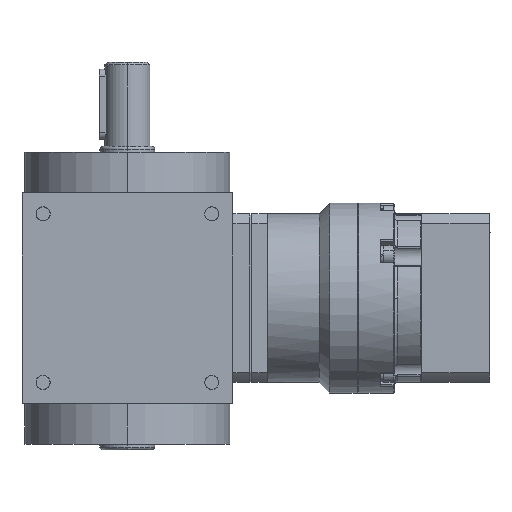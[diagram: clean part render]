
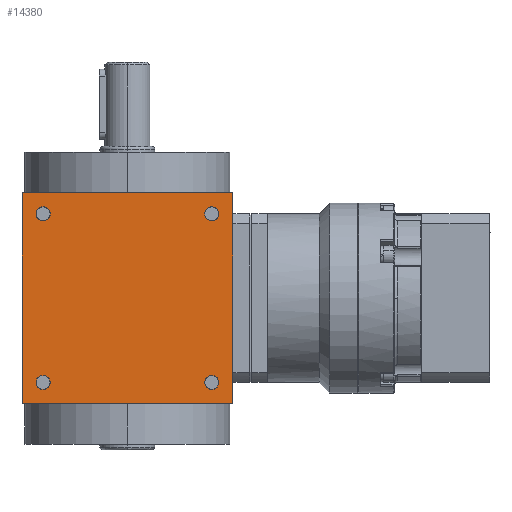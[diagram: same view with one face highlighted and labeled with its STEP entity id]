
A CAD part, left-side view. The second image highlights one B-rep face of the part: STEP entity #14380.
In plain terms, the highlighted planar face has unit normal (-1, 0, 0).
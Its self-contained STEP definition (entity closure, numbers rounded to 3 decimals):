
#20 = EDGE_CURVE ( 'NONE', #44343, #11899, #20304, .T. ) ;
#639 = DIRECTION ( 'NONE',  ( 1., 0., 0. ) ) ;
#1460 = DIRECTION ( 'NONE',  ( 1., 0., 0. ) ) ;
#1867 = LINE ( 'NONE', #36830, #10770 ) ;
#1941 = LINE ( 'NONE', #26510, #14224 ) ;
#2510 = DIRECTION ( 'NONE',  ( 0., 0., 1. ) ) ;
#2531 = CIRCLE ( 'NONE', #5430, 2.5 ) ;
#2699 = VERTEX_POINT ( 'NONE', #40172 ) ;
#3437 = EDGE_CURVE ( 'NONE', #5708, #14130, #1941, .T. ) ;
#3561 = EDGE_CURVE ( 'NONE', #11339, #37148, #9880, .T. ) ;
#3823 = ORIENTED_EDGE ( 'NONE', *, *, #19645, .T. ) ;
#4074 = VERTEX_POINT ( 'NONE', #8961 ) ;
#4491 = EDGE_CURVE ( 'NONE', #33324, #44034, #38054, .T. ) ;
#4790 = EDGE_CURVE ( 'NONE', #2699, #31232, #17212, .T. ) ;
#4889 = CARTESIAN_POINT ( 'NONE',  ( -37.5, -30., -27.5 ) ) ;
#5052 = VERTEX_POINT ( 'NONE', #5494 ) ;
#5208 = ORIENTED_EDGE ( 'NONE', *, *, #17234, .F. ) ;
#5430 = AXIS2_PLACEMENT_3D ( 'NONE', #23475, #43825, #2510 ) ;
#5494 = CARTESIAN_POINT ( 'NONE',  ( -37.5, 37.5, 37.5 ) ) ;
#5708 = VERTEX_POINT ( 'NONE', #29102 ) ;
#5906 = DIRECTION ( 'NONE',  ( 0., -1., 0. ) ) ;
#6437 = EDGE_CURVE ( 'NONE', #4074, #14130, #1867, .T. ) ;
#6492 = AXIS2_PLACEMENT_3D ( 'NONE', #36812, #27087, #19849 ) ;
#6543 = CARTESIAN_POINT ( 'NONE',  ( -37.5, 30., 27.5 ) ) ;
#6564 = FACE_OUTER_BOUND ( 'NONE', #7565, .T. ) ;
#7565 = EDGE_LOOP ( 'NONE', ( #23438, #18911, #12401, #5208 ) ) ;
#7967 = ORIENTED_EDGE ( 'NONE', *, *, #4790, .T. ) ;
#8961 = CARTESIAN_POINT ( 'NONE',  ( -37.5, 37.5, -37.5 ) ) ;
#9258 = FACE_BOUND ( 'NONE', #32016, .T. ) ;
#9880 = CIRCLE ( 'NONE', #37989, 2.5 ) ;
#10048 = CARTESIAN_POINT ( 'NONE',  ( -37.5, -30., 30. ) ) ;
#10548 = ORIENTED_EDGE ( 'NONE', *, *, #38061, .T. ) ;
#10602 = CARTESIAN_POINT ( 'NONE',  ( -37.5, 30., 32.5 ) ) ;
#10770 = VECTOR ( 'NONE', #5906, 1000. ) ;
#10957 = AXIS2_PLACEMENT_3D ( 'NONE', #16544, #23088, #26469 ) ;
#11339 = VERTEX_POINT ( 'NONE', #6543 ) ;
#11887 = VECTOR ( 'NONE', #12219, 1000. ) ;
#11899 = VERTEX_POINT ( 'NONE', #4889 ) ;
#12219 = DIRECTION ( 'NONE',  ( 0., 0., 1. ) ) ;
#12401 = ORIENTED_EDGE ( 'NONE', *, *, #3437, .F. ) ;
#12657 = ORIENTED_EDGE ( 'NONE', *, *, #20, .T. ) ;
#13327 = PLANE ( 'NONE',  #6492 ) ;
#14130 = VERTEX_POINT ( 'NONE', #18108 ) ;
#14224 = VECTOR ( 'NONE', #36675, 1000. ) ;
#14328 = DIRECTION ( 'NONE',  ( 0., 0., 1. ) ) ;
#14380 = ADVANCED_FACE ( 'NONE', ( #6564, #30478, #37706, #9258, #44277 ), #13327, .T. ) ;
#15124 = AXIS2_PLACEMENT_3D ( 'NONE', #27427, #1460, #39141 ) ;
#16544 = CARTESIAN_POINT ( 'NONE',  ( -37.5, -30., -30. ) ) ;
#16546 = CARTESIAN_POINT ( 'NONE',  ( -37.5, 30., -27.5 ) ) ;
#17212 = CIRCLE ( 'NONE', #33062, 2.5 ) ;
#17234 = EDGE_CURVE ( 'NONE', #5052, #5708, #24259, .T. ) ;
#17685 = DIRECTION ( 'NONE',  ( 0., 0., 1. ) ) ;
#18108 = CARTESIAN_POINT ( 'NONE',  ( -37.5, -37.5, -37.5 ) ) ;
#18533 = CARTESIAN_POINT ( 'NONE',  ( -37.5, -30., -30. ) ) ;
#18731 = CIRCLE ( 'NONE', #15124, 2.5 ) ;
#18763 = DIRECTION ( 'NONE',  ( 1., 0., 0. ) ) ;
#18911 = ORIENTED_EDGE ( 'NONE', *, *, #6437, .T. ) ;
#19645 = EDGE_CURVE ( 'NONE', #31232, #2699, #32284, .T. ) ;
#19849 = DIRECTION ( 'NONE',  ( 0., 0., 1. ) ) ;
#20304 = CIRCLE ( 'NONE', #10957, 2.5 ) ;
#20315 = ORIENTED_EDGE ( 'NONE', *, *, #4491, .T. ) ;
#21073 = DIRECTION ( 'NONE',  ( 1., 0., 0. ) ) ;
#22169 = ORIENTED_EDGE ( 'NONE', *, *, #3561, .T. ) ;
#22386 = EDGE_CURVE ( 'NONE', #4074, #5052, #32551, .T. ) ;
#22462 = EDGE_CURVE ( 'NONE', #37148, #11339, #2531, .T. ) ;
#23088 = DIRECTION ( 'NONE',  ( 1., 0., 0. ) ) ;
#23438 = ORIENTED_EDGE ( 'NONE', *, *, #22386, .F. ) ;
#23475 = CARTESIAN_POINT ( 'NONE',  ( -37.5, 30., 30. ) ) ;
#24259 = LINE ( 'NONE', #24488, #37954 ) ;
#24311 = AXIS2_PLACEMENT_3D ( 'NONE', #18533, #18763, #28477 ) ;
#24362 = AXIS2_PLACEMENT_3D ( 'NONE', #34491, #639, #41279 ) ;
#24372 = AXIS2_PLACEMENT_3D ( 'NONE', #38979, #43036, #29017 ) ;
#24488 = CARTESIAN_POINT ( 'NONE',  ( -37.5, 0., 37.5 ) ) ;
#26469 = DIRECTION ( 'NONE',  ( 0., 0., 1. ) ) ;
#26510 = CARTESIAN_POINT ( 'NONE',  ( -37.5, -37.5, -37.5 ) ) ;
#27087 = DIRECTION ( 'NONE',  ( -1., 0., 0. ) ) ;
#27427 = CARTESIAN_POINT ( 'NONE',  ( -37.5, 30., -30. ) ) ;
#27645 = DIRECTION ( 'NONE',  ( 1., 0., 0. ) ) ;
#28477 = DIRECTION ( 'NONE',  ( 0., 0., 1. ) ) ;
#29017 = DIRECTION ( 'NONE',  ( 0., 0., 1. ) ) ;
#29102 = CARTESIAN_POINT ( 'NONE',  ( -37.5, -37.5, 37.5 ) ) ;
#29575 = EDGE_CURVE ( 'NONE', #44034, #33324, #18731, .T. ) ;
#30478 = FACE_BOUND ( 'NONE', #39224, .T. ) ;
#31043 = CARTESIAN_POINT ( 'NONE',  ( -37.5, -30., 27.5 ) ) ;
#31232 = VERTEX_POINT ( 'NONE', #31043 ) ;
#32016 = EDGE_LOOP ( 'NONE', ( #10548, #12657 ) ) ;
#32284 = CIRCLE ( 'NONE', #24362, 2.5 ) ;
#32286 = EDGE_LOOP ( 'NONE', ( #32733, #22169 ) ) ;
#32325 = CARTESIAN_POINT ( 'NONE',  ( -37.5, 37.5, -37.5 ) ) ;
#32551 = LINE ( 'NONE', #32325, #11887 ) ;
#32733 = ORIENTED_EDGE ( 'NONE', *, *, #22462, .T. ) ;
#33062 = AXIS2_PLACEMENT_3D ( 'NONE', #10048, #27645, #14328 ) ;
#33324 = VERTEX_POINT ( 'NONE', #43410 ) ;
#34491 = CARTESIAN_POINT ( 'NONE',  ( -37.5, -30., 30. ) ) ;
#36675 = DIRECTION ( 'NONE',  ( 0., 0., -1. ) ) ;
#36812 = CARTESIAN_POINT ( 'NONE',  ( -37.5, 37.5, -37.5 ) ) ;
#36830 = CARTESIAN_POINT ( 'NONE',  ( -37.5, 0., -37.5 ) ) ;
#37148 = VERTEX_POINT ( 'NONE', #10602 ) ;
#37706 = FACE_BOUND ( 'NONE', #44213, .T. ) ;
#37794 = CARTESIAN_POINT ( 'NONE',  ( -37.5, 30., 30. ) ) ;
#37954 = VECTOR ( 'NONE', #38264, 1000. ) ;
#37989 = AXIS2_PLACEMENT_3D ( 'NONE', #37794, #21073, #17685 ) ;
#38054 = CIRCLE ( 'NONE', #24372, 2.5 ) ;
#38061 = EDGE_CURVE ( 'NONE', #11899, #44343, #43784, .T. ) ;
#38264 = DIRECTION ( 'NONE',  ( 0., -1., 0. ) ) ;
#38979 = CARTESIAN_POINT ( 'NONE',  ( -37.5, 30., -30. ) ) ;
#39141 = DIRECTION ( 'NONE',  ( 0., 0., 1. ) ) ;
#39224 = EDGE_LOOP ( 'NONE', ( #7967, #3823 ) ) ;
#40172 = CARTESIAN_POINT ( 'NONE',  ( -37.5, -30., 32.5 ) ) ;
#41279 = DIRECTION ( 'NONE',  ( 0., 0., 1. ) ) ;
#42946 = CARTESIAN_POINT ( 'NONE',  ( -37.5, -30., -32.5 ) ) ;
#43036 = DIRECTION ( 'NONE',  ( 1., 0., 0. ) ) ;
#43410 = CARTESIAN_POINT ( 'NONE',  ( -37.5, 30., -32.5 ) ) ;
#43531 = ORIENTED_EDGE ( 'NONE', *, *, #29575, .T. ) ;
#43784 = CIRCLE ( 'NONE', #24311, 2.5 ) ;
#43825 = DIRECTION ( 'NONE',  ( 1., 0., 0. ) ) ;
#44034 = VERTEX_POINT ( 'NONE', #16546 ) ;
#44213 = EDGE_LOOP ( 'NONE', ( #43531, #20315 ) ) ;
#44277 = FACE_BOUND ( 'NONE', #32286, .T. ) ;
#44343 = VERTEX_POINT ( 'NONE', #42946 ) ;
